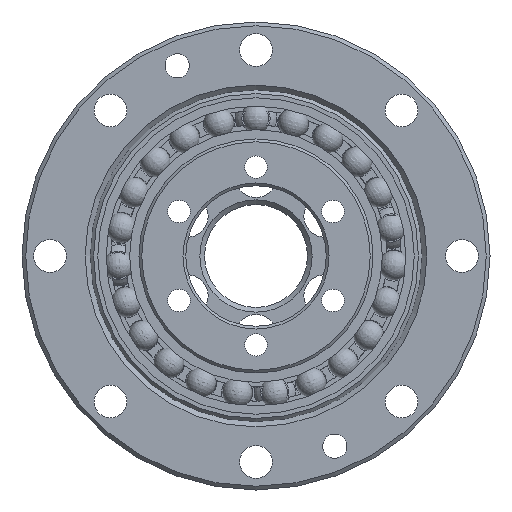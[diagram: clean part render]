
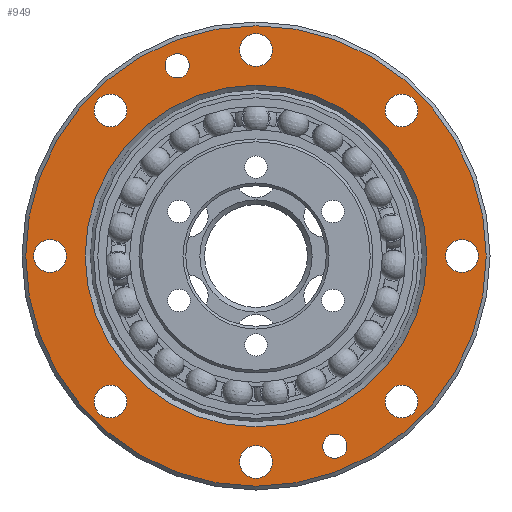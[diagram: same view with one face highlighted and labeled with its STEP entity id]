
A CAD part, left-side view. The second image highlights one B-rep face of the part: STEP entity #949.
In plain terms, the highlighted planar face has unit normal (-1, 0, 0).
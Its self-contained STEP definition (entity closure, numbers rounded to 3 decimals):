
#949=ADVANCED_FACE('',(#1304,#1305,#1306,#1307,#1308,#1309,#1310,#1311,
#1312,#1313,#1314,#1315),#1173,.F.);
#1173=PLANE('',#4242);
#1304=FACE_BOUND('',#1545,.T.);
#1305=FACE_BOUND('',#1546,.T.);
#1306=FACE_BOUND('',#1547,.T.);
#1307=FACE_BOUND('',#1548,.T.);
#1308=FACE_BOUND('',#1549,.T.);
#1309=FACE_BOUND('',#1550,.T.);
#1310=FACE_BOUND('',#1551,.T.);
#1311=FACE_BOUND('',#1552,.T.);
#1312=FACE_BOUND('',#1553,.T.);
#1313=FACE_BOUND('',#1554,.T.);
#1314=FACE_BOUND('',#1555,.T.);
#1315=FACE_BOUND('',#1556,.T.);
#1545=EDGE_LOOP('',(#1901));
#1546=EDGE_LOOP('',(#1902));
#1547=EDGE_LOOP('',(#1903));
#1548=EDGE_LOOP('',(#1904));
#1549=EDGE_LOOP('',(#1905));
#1550=EDGE_LOOP('',(#1906));
#1551=EDGE_LOOP('',(#1907));
#1552=EDGE_LOOP('',(#1908));
#1553=EDGE_LOOP('',(#1909));
#1554=EDGE_LOOP('',(#1910));
#1555=EDGE_LOOP('',(#1911));
#1556=EDGE_LOOP('',(#1912));
#1901=ORIENTED_EDGE('',*,*,#3319,.T.);
#1902=ORIENTED_EDGE('',*,*,#3320,.T.);
#1903=ORIENTED_EDGE('',*,*,#3321,.T.);
#1904=ORIENTED_EDGE('',*,*,#3322,.T.);
#1905=ORIENTED_EDGE('',*,*,#3323,.T.);
#1906=ORIENTED_EDGE('',*,*,#3324,.T.);
#1907=ORIENTED_EDGE('',*,*,#3325,.T.);
#1908=ORIENTED_EDGE('',*,*,#3326,.T.);
#1909=ORIENTED_EDGE('',*,*,#3327,.T.);
#1910=ORIENTED_EDGE('',*,*,#3328,.T.);
#1911=ORIENTED_EDGE('',*,*,#3329,.T.);
#1912=ORIENTED_EDGE('',*,*,#3330,.T.);
#2912=VERTEX_POINT('',#5834);
#2913=VERTEX_POINT('',#5836);
#2914=VERTEX_POINT('',#5838);
#2915=VERTEX_POINT('',#5840);
#2916=VERTEX_POINT('',#5842);
#2917=VERTEX_POINT('',#5844);
#2918=VERTEX_POINT('',#5846);
#2919=VERTEX_POINT('',#5848);
#2920=VERTEX_POINT('',#5850);
#2921=VERTEX_POINT('',#5852);
#2922=VERTEX_POINT('',#5854);
#2923=VERTEX_POINT('',#5856);
#3319=EDGE_CURVE('',#2912,#2912,#3865,.T.);
#3320=EDGE_CURVE('',#2913,#2913,#3866,.T.);
#3321=EDGE_CURVE('',#2914,#2914,#3867,.T.);
#3322=EDGE_CURVE('',#2915,#2915,#3868,.T.);
#3323=EDGE_CURVE('',#2916,#2916,#3869,.T.);
#3324=EDGE_CURVE('',#2917,#2917,#3870,.T.);
#3325=EDGE_CURVE('',#2918,#2918,#3871,.T.);
#3326=EDGE_CURVE('',#2919,#2919,#3872,.T.);
#3327=EDGE_CURVE('',#2920,#2920,#3873,.T.);
#3328=EDGE_CURVE('',#2921,#2921,#3874,.T.);
#3329=EDGE_CURVE('',#2922,#2922,#3875,.T.);
#3330=EDGE_CURVE('',#2923,#2923,#3876,.T.);
#3865=CIRCLE('',#4230,18.25);
#3866=CIRCLE('',#4231,24.6);
#3867=CIRCLE('',#4232,1.3);
#3868=CIRCLE('',#4233,1.3);
#3869=CIRCLE('',#4234,1.75);
#3870=CIRCLE('',#4235,1.75);
#3871=CIRCLE('',#4236,1.75);
#3872=CIRCLE('',#4237,1.75);
#3873=CIRCLE('',#4238,1.75);
#3874=CIRCLE('',#4239,1.75);
#3875=CIRCLE('',#4240,1.75);
#3876=CIRCLE('',#4241,1.75);
#4230=AXIS2_PLACEMENT_3D('',#5833,#4797,#4798);
#4231=AXIS2_PLACEMENT_3D('',#5835,#4799,#4800);
#4232=AXIS2_PLACEMENT_3D('',#5837,#4801,#4802);
#4233=AXIS2_PLACEMENT_3D('',#5839,#4803,#4804);
#4234=AXIS2_PLACEMENT_3D('',#5841,#4805,#4806);
#4235=AXIS2_PLACEMENT_3D('',#5843,#4807,#4808);
#4236=AXIS2_PLACEMENT_3D('',#5845,#4809,#4810);
#4237=AXIS2_PLACEMENT_3D('',#5847,#4811,#4812);
#4238=AXIS2_PLACEMENT_3D('',#5849,#4813,#4814);
#4239=AXIS2_PLACEMENT_3D('',#5851,#4815,#4816);
#4240=AXIS2_PLACEMENT_3D('',#5853,#4817,#4818);
#4241=AXIS2_PLACEMENT_3D('',#5855,#4819,#4820);
#4242=AXIS2_PLACEMENT_3D('',#5857,#4821,#4822);
#4797=DIRECTION('',(1.,0.,0.));
#4798=DIRECTION('',(0.,0.,-1.));
#4799=DIRECTION('',(-1.,0.,0.));
#4800=DIRECTION('',(0.,0.,-1.));
#4801=DIRECTION('',(1.,0.,0.));
#4802=DIRECTION('',(0.,0.,-1.));
#4803=DIRECTION('',(1.,0.,0.));
#4804=DIRECTION('',(0.,0.,-1.));
#4805=DIRECTION('',(1.,0.,0.));
#4806=DIRECTION('',(0.,0.,-1.));
#4807=DIRECTION('',(1.,0.,0.));
#4808=DIRECTION('',(0.,0.,-1.));
#4809=DIRECTION('',(1.,0.,0.));
#4810=DIRECTION('',(0.,0.,-1.));
#4811=DIRECTION('',(1.,0.,0.));
#4812=DIRECTION('',(0.,0.,-1.));
#4813=DIRECTION('',(1.,0.,0.));
#4814=DIRECTION('',(0.,0.,-1.));
#4815=DIRECTION('',(1.,0.,0.));
#4816=DIRECTION('',(0.,0.,-1.));
#4817=DIRECTION('',(1.,0.,0.));
#4818=DIRECTION('',(0.,0.,-1.));
#4819=DIRECTION('',(1.,0.,0.));
#4820=DIRECTION('',(0.,0.,-1.));
#4821=DIRECTION('',(1.,0.,0.));
#4822=DIRECTION('',(0.,0.,-1.));
#5833=CARTESIAN_POINT('',(0.,0.,0.));
#5834=CARTESIAN_POINT('',(0.,0.,-18.25));
#5835=CARTESIAN_POINT('',(0.,0.,0.));
#5836=CARTESIAN_POINT('',(0.,0.,-24.6));
#5837=CARTESIAN_POINT('',(0.,-8.419,-20.325));
#5838=CARTESIAN_POINT('',(0.,-8.419,-21.625));
#5839=CARTESIAN_POINT('',(0.,8.419,20.325));
#5840=CARTESIAN_POINT('',(0.,8.419,19.025));
#5841=CARTESIAN_POINT('',(0.,0.,22.));
#5842=CARTESIAN_POINT('',(0.,0.,20.25));
#5843=CARTESIAN_POINT('',(0.,15.556,15.556));
#5844=CARTESIAN_POINT('',(0.,15.556,13.806));
#5845=CARTESIAN_POINT('',(0.,22.,0.));
#5846=CARTESIAN_POINT('',(0.,22.,-1.75));
#5847=CARTESIAN_POINT('',(0.,15.556,-15.556));
#5848=CARTESIAN_POINT('',(0.,15.556,-17.306));
#5849=CARTESIAN_POINT('',(0.,0.,-22.));
#5850=CARTESIAN_POINT('',(0.,0.,-23.75));
#5851=CARTESIAN_POINT('',(0.,-15.556,-15.556));
#5852=CARTESIAN_POINT('',(0.,-15.556,-17.306));
#5853=CARTESIAN_POINT('',(0.,-22.,0.));
#5854=CARTESIAN_POINT('',(0.,-22.,-1.75));
#5855=CARTESIAN_POINT('',(0.,-15.556,15.556));
#5856=CARTESIAN_POINT('',(0.,-15.556,13.806));
#5857=CARTESIAN_POINT('',(0.,0.,25.));
